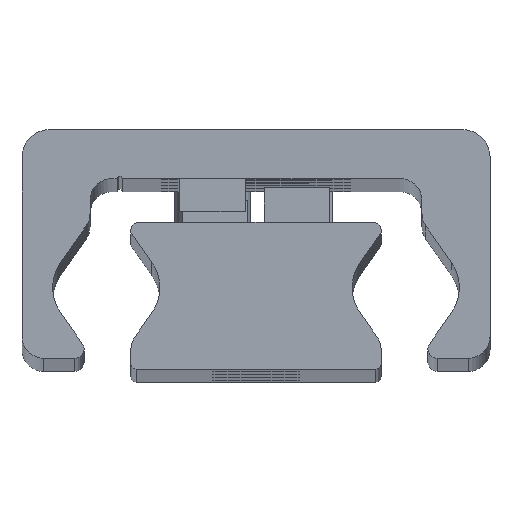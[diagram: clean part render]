
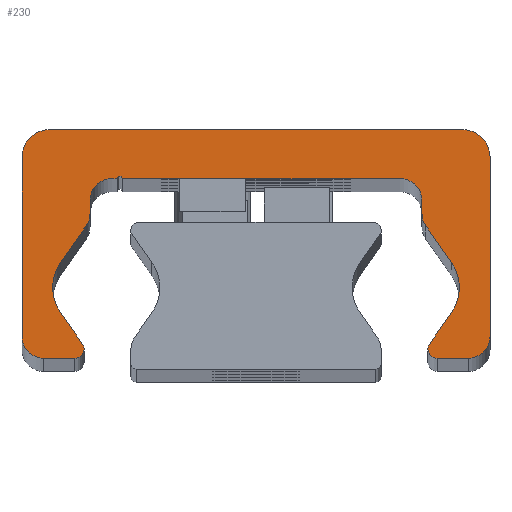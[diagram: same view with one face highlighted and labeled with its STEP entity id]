
A CAD part, top view. The second image highlights one B-rep face of the part: STEP entity #230.
In plain terms, the highlighted planar face has unit normal (0, 0, 1).
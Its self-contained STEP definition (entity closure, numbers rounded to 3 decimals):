
#230=ADVANCED_FACE('',(#604),#605,.T.);
#604=FACE_OUTER_BOUND('',#979,.T.);
#605=PLANE('',#980);
#979=EDGE_LOOP('',(#2258,#2259,#2260,#2261,#2262,#2263,#2264,#2265,#2266,#2267,#2268,#2269,#2270,#2271,#2272,#2273,#2274,#2275,#2276,#2277,#2278,#2279,#2280,#2281,#2282,#2283,#2284,#2285,#2286,#2287));
#980=AXIS2_PLACEMENT_3D('',#2288,#2289,#2290);
#2258=ORIENTED_EDGE('',*,*,#2549,.F.);
#2259=ORIENTED_EDGE('',*,*,#2742,.F.);
#2260=ORIENTED_EDGE('',*,*,#2535,.F.);
#2261=ORIENTED_EDGE('',*,*,#2741,.F.);
#2262=ORIENTED_EDGE('',*,*,#2737,.F.);
#2263=ORIENTED_EDGE('',*,*,#2734,.F.);
#2264=ORIENTED_EDGE('',*,*,#2731,.F.);
#2265=ORIENTED_EDGE('',*,*,#2728,.F.);
#2266=ORIENTED_EDGE('',*,*,#2725,.F.);
#2267=ORIENTED_EDGE('',*,*,#2722,.F.);
#2268=ORIENTED_EDGE('',*,*,#2719,.F.);
#2269=ORIENTED_EDGE('',*,*,#2716,.F.);
#2270=ORIENTED_EDGE('',*,*,#2713,.F.);
#2271=ORIENTED_EDGE('',*,*,#2710,.F.);
#2272=ORIENTED_EDGE('',*,*,#2541,.F.);
#2273=ORIENTED_EDGE('',*,*,#2708,.F.);
#2274=ORIENTED_EDGE('',*,*,#2543,.F.);
#2275=ORIENTED_EDGE('',*,*,#2707,.F.);
#2276=ORIENTED_EDGE('',*,*,#2703,.F.);
#2277=ORIENTED_EDGE('',*,*,#2700,.F.);
#2278=ORIENTED_EDGE('',*,*,#2697,.F.);
#2279=ORIENTED_EDGE('',*,*,#2694,.F.);
#2280=ORIENTED_EDGE('',*,*,#2691,.F.);
#2281=ORIENTED_EDGE('',*,*,#2688,.F.);
#2282=ORIENTED_EDGE('',*,*,#2685,.F.);
#2283=ORIENTED_EDGE('',*,*,#2682,.F.);
#2284=ORIENTED_EDGE('',*,*,#2679,.F.);
#2285=ORIENTED_EDGE('',*,*,#2676,.F.);
#2286=ORIENTED_EDGE('',*,*,#2673,.F.);
#2287=ORIENTED_EDGE('',*,*,#2670,.F.);
#2288=CARTESIAN_POINT('',(-0.023,14.187,690.0));
#2289=DIRECTION('',(0.0,0.0,1.0));
#2290=DIRECTION('',(1.0,0.0,0.0));
#2535=EDGE_CURVE('',#3082,#3085,#3086,.T.);
#2541=EDGE_CURVE('',#3095,#3091,#3097,.T.);
#2543=EDGE_CURVE('',#3098,#3101,#3102,.T.);
#2549=EDGE_CURVE('',#3111,#3107,#3113,.T.);
#2670=EDGE_CURVE('',#3107,#3308,#3309,.T.);
#2673=EDGE_CURVE('',#3308,#3313,#3314,.T.);
#2676=EDGE_CURVE('',#3313,#3318,#3319,.T.);
#2679=EDGE_CURVE('',#3318,#3323,#3324,.T.);
#2682=EDGE_CURVE('',#3323,#3328,#3329,.T.);
#2685=EDGE_CURVE('',#3328,#3333,#3334,.T.);
#2688=EDGE_CURVE('',#3333,#3338,#3339,.T.);
#2691=EDGE_CURVE('',#3338,#3343,#3344,.T.);
#2694=EDGE_CURVE('',#3343,#3348,#3349,.T.);
#2697=EDGE_CURVE('',#3348,#3353,#3354,.T.);
#2700=EDGE_CURVE('',#3353,#3358,#3359,.T.);
#2703=EDGE_CURVE('',#3358,#3363,#3364,.T.);
#2707=EDGE_CURVE('',#3363,#3098,#3369,.T.);
#2708=EDGE_CURVE('',#3101,#3095,#3370,.T.);
#2710=EDGE_CURVE('',#3091,#3372,#3373,.T.);
#2713=EDGE_CURVE('',#3372,#3377,#3378,.T.);
#2716=EDGE_CURVE('',#3377,#3382,#3383,.T.);
#2719=EDGE_CURVE('',#3382,#3387,#3388,.T.);
#2722=EDGE_CURVE('',#3387,#3392,#3393,.T.);
#2725=EDGE_CURVE('',#3392,#3397,#3398,.T.);
#2728=EDGE_CURVE('',#3397,#3402,#3403,.T.);
#2731=EDGE_CURVE('',#3402,#3407,#3408,.T.);
#2734=EDGE_CURVE('',#3407,#3412,#3413,.T.);
#2737=EDGE_CURVE('',#3412,#3417,#3418,.T.);
#2741=EDGE_CURVE('',#3417,#3082,#3423,.T.);
#2742=EDGE_CURVE('',#3085,#3111,#3424,.T.);
#3082=VERTEX_POINT('',#3878);
#3085=VERTEX_POINT('',#3882);
#3086=CIRCLE('',#3883,0.85);
#3091=VERTEX_POINT('',#3889);
#3095=VERTEX_POINT('',#3894);
#3097=CIRCLE('',#3897,0.85);
#3098=VERTEX_POINT('',#3898);
#3101=VERTEX_POINT('',#3902);
#3102=CIRCLE('',#3903,4.);
#3107=VERTEX_POINT('',#3909);
#3111=VERTEX_POINT('',#3914);
#3113=CIRCLE('',#3917,4.);
#3308=VERTEX_POINT('',#4174);
#3309=CIRCLE('',#4175,4.);
#3313=VERTEX_POINT('',#4180);
#3314=LINE('',#4181,#4182);
#3318=VERTEX_POINT('',#4188);
#3319=CIRCLE('',#4189,2.);
#3323=VERTEX_POINT('',#4194);
#3324=LINE('',#4195,#4196);
#3328=VERTEX_POINT('',#4202);
#3329=CIRCLE('',#4203,2.0);
#3333=VERTEX_POINT('',#4208);
#3334=LINE('',#4209,#4210);
#3338=VERTEX_POINT('',#4216);
#3339=CIRCLE('',#4217,0.25);
#3343=VERTEX_POINT('',#4222);
#3344=LINE('',#4223,#4224);
#3348=VERTEX_POINT('',#4230);
#3349=CIRCLE('',#4231,2.0);
#3353=VERTEX_POINT('',#4236);
#3354=LINE('',#4237,#4238);
#3358=VERTEX_POINT('',#4244);
#3359=CIRCLE('',#4245,2.0);
#3363=VERTEX_POINT('',#4250);
#3364=LINE('',#4251,#4252);
#3369=CIRCLE('',#4259,4.);
#3370=LINE('',#4260,#4261);
#3372=VERTEX_POINT('',#4264);
#3373=CIRCLE('',#4265,0.85);
#3377=VERTEX_POINT('',#4270);
#3378=LINE('',#4271,#4272);
#3382=VERTEX_POINT('',#4278);
#3383=CIRCLE('',#4279,2.);
#3387=VERTEX_POINT('',#4284);
#3388=LINE('',#4285,#4286);
#3392=VERTEX_POINT('',#4292);
#3393=CIRCLE('',#4293,2.5);
#3397=VERTEX_POINT('',#4298);
#3398=LINE('',#4299,#4300);
#3402=VERTEX_POINT('',#4306);
#3403=CIRCLE('',#4307,2.5);
#3407=VERTEX_POINT('',#4312);
#3408=LINE('',#4313,#4314);
#3412=VERTEX_POINT('',#4320);
#3413=CIRCLE('',#4321,2.);
#3417=VERTEX_POINT('',#4326);
#3418=LINE('',#4327,#4328);
#3423=CIRCLE('',#4335,0.85);
#3424=LINE('',#4336,#4337);
#3878=CARTESIAN_POINT('',(15.8,1.859,690.0));
#3882=CARTESIAN_POINT('',(15.922,2.298,690.0));
#3883=AXIS2_PLACEMENT_3D('',#4743,#4744,#4745);
#3889=CARTESIAN_POINT('',(-15.8,1.859,690.0));
#3894=CARTESIAN_POINT('',(-15.922,2.298,690.0));
#3897=AXIS2_PLACEMENT_3D('',#4755,#4756,#4757);
#3898=CARTESIAN_POINT('',(-18.688,7.509,690.0));
#3902=CARTESIAN_POINT('',(-17.964,5.214,690.0));
#3903=AXIS2_PLACEMENT_3D('',#4759,#4760,#4761);
#3909=CARTESIAN_POINT('',(18.688,7.509,690.0));
#3914=CARTESIAN_POINT('',(17.964,5.214,690.0));
#3917=AXIS2_PLACEMENT_3D('',#4771,#4772,#4773);
#4174=CARTESIAN_POINT('',(17.964,9.803,690.0));
#4175=AXIS2_PLACEMENT_3D('',#5010,#5011,#5012);
#4180=CARTESIAN_POINT('',(15.612,13.163,690.0));
#4181=CARTESIAN_POINT('',(15.612,13.163,690.0));
#4182=VECTOR('',#5017,1.0);
#4188=CARTESIAN_POINT('',(15.25,14.31,690.0));
#4189=AXIS2_PLACEMENT_3D('',#5020,#5021,#5022);
#4194=CARTESIAN_POINT('',(15.25,15.509,690.0));
#4195=CARTESIAN_POINT('',(15.25,15.509,690.0));
#4196=VECTOR('',#5027,1.0);
#4202=CARTESIAN_POINT('',(13.25,17.509,690.0));
#4203=AXIS2_PLACEMENT_3D('',#5030,#5031,#5032);
#4208=CARTESIAN_POINT('',(-12.25,17.509,690.0));
#4209=CARTESIAN_POINT('',(-12.25,17.509,690.0));
#4210=VECTOR('',#5037,1.0);
#4216=CARTESIAN_POINT('',(-12.75,17.509,690.0));
#4217=AXIS2_PLACEMENT_3D('',#5040,#5041,#5042);
#4222=CARTESIAN_POINT('',(-13.25,17.509,690.0));
#4223=CARTESIAN_POINT('',(-13.25,17.509,690.0));
#4224=VECTOR('',#5047,1.0);
#4230=CARTESIAN_POINT('',(-15.25,15.509,690.0));
#4231=AXIS2_PLACEMENT_3D('',#5050,#5051,#5052);
#4236=CARTESIAN_POINT('',(-15.25,14.31,690.0));
#4237=CARTESIAN_POINT('',(-15.25,14.31,690.0));
#4238=VECTOR('',#5057,1.0);
#4244=CARTESIAN_POINT('',(-15.612,13.163,690.0));
#4245=AXIS2_PLACEMENT_3D('',#5060,#5061,#5062);
#4250=CARTESIAN_POINT('',(-17.964,9.803,690.0));
#4251=CARTESIAN_POINT('',(-17.964,9.803,690.0));
#4252=VECTOR('',#5067,1.0);
#4259=AXIS2_PLACEMENT_3D('',#5073,#5074,#5075);
#4260=CARTESIAN_POINT('',(-15.922,2.298,690.0));
#4261=VECTOR('',#5076,1.0);
#4264=CARTESIAN_POINT('',(-16.65,1.009,690.0));
#4265=AXIS2_PLACEMENT_3D('',#5078,#5079,#5080);
#4270=CARTESIAN_POINT('',(-19.5,1.009,690.0));
#4271=CARTESIAN_POINT('',(-19.5,1.009,690.0));
#4272=VECTOR('',#5085,1.0);
#4278=CARTESIAN_POINT('',(-21.5,3.009,690.0));
#4279=AXIS2_PLACEMENT_3D('',#5088,#5089,#5090);
#4284=CARTESIAN_POINT('',(-21.5,19.509,690.0));
#4285=CARTESIAN_POINT('',(-21.5,19.509,690.0));
#4286=VECTOR('',#5095,1.0);
#4292=CARTESIAN_POINT('',(-19.0,22.009,690.0));
#4293=AXIS2_PLACEMENT_3D('',#5098,#5099,#5100);
#4298=CARTESIAN_POINT('',(19.0,22.009,690.0));
#4299=CARTESIAN_POINT('',(19.0,22.009,690.0));
#4300=VECTOR('',#5105,1.0);
#4306=CARTESIAN_POINT('',(21.5,19.509,690.0));
#4307=AXIS2_PLACEMENT_3D('',#5108,#5109,#5110);
#4312=CARTESIAN_POINT('',(21.5,3.009,690.0));
#4313=CARTESIAN_POINT('',(21.5,3.009,690.0));
#4314=VECTOR('',#5115,1.0);
#4320=CARTESIAN_POINT('',(19.5,1.009,690.0));
#4321=AXIS2_PLACEMENT_3D('',#5118,#5119,#5120);
#4326=CARTESIAN_POINT('',(16.65,1.009,690.0));
#4327=CARTESIAN_POINT('',(16.65,1.009,690.0));
#4328=VECTOR('',#5125,1.0);
#4335=AXIS2_PLACEMENT_3D('',#5131,#5132,#5133);
#4336=CARTESIAN_POINT('',(17.964,5.214,690.0));
#4337=VECTOR('',#5134,1.0);
#4743=CARTESIAN_POINT('',(16.65,1.859,690.0));
#4744=DIRECTION('',(0.0,0.0,-1.0));
#4745=DIRECTION('',(1.0,0.0,0.0));
#4755=CARTESIAN_POINT('',(-16.65,1.859,690.0));
#4756=DIRECTION('',(0.0,0.0,-1.0));
#4757=DIRECTION('',(1.0,0.0,0.0));
#4759=CARTESIAN_POINT('',(-14.688,7.509,690.0));
#4760=DIRECTION('',(0.0,0.0,1.0));
#4761=DIRECTION('',(1.0,0.0,0.0));
#4771=CARTESIAN_POINT('',(14.688,7.509,690.0));
#4772=DIRECTION('',(0.0,0.0,1.0));
#4773=DIRECTION('',(1.0,0.0,0.0));
#5010=CARTESIAN_POINT('',(14.688,7.509,690.0));
#5011=DIRECTION('',(0.0,0.0,1.0));
#5012=DIRECTION('',(1.0,0.0,0.0));
#5017=DIRECTION('',(-0.574,0.819,0.0));
#5020=CARTESIAN_POINT('',(17.25,14.31,690.0));
#5021=DIRECTION('',(0.0,0.0,-1.0));
#5022=DIRECTION('',(1.0,0.0,0.0));
#5027=DIRECTION('',(0.0,1.0,0.0));
#5030=CARTESIAN_POINT('',(13.25,15.509,690.0));
#5031=DIRECTION('',(0.0,0.0,1.0));
#5032=DIRECTION('',(1.0,0.0,0.0));
#5037=DIRECTION('',(-1.0,-0.0,-0.0));
#5040=CARTESIAN_POINT('',(-12.5,17.509,690.0));
#5041=DIRECTION('',(0.0,0.0,1.0));
#5042=DIRECTION('',(1.0,0.0,0.0));
#5047=DIRECTION('',(-1.0,-0.0,-0.0));
#5050=CARTESIAN_POINT('',(-13.25,15.509,690.0));
#5051=DIRECTION('',(0.0,0.0,1.0));
#5052=DIRECTION('',(1.0,0.0,0.0));
#5057=DIRECTION('',(-0.0,-1.0,-0.0));
#5060=CARTESIAN_POINT('',(-17.25,14.31,690.0));
#5061=DIRECTION('',(0.0,0.0,-1.0));
#5062=DIRECTION('',(1.0,0.0,0.0));
#5067=DIRECTION('',(-0.574,-0.819,-0.0));
#5073=CARTESIAN_POINT('',(-14.688,7.509,690.0));
#5074=DIRECTION('',(0.0,0.0,1.0));
#5075=DIRECTION('',(1.0,0.0,0.0));
#5076=DIRECTION('',(0.574,-0.819,0.0));
#5078=CARTESIAN_POINT('',(-16.65,1.859,690.0));
#5079=DIRECTION('',(0.0,0.0,-1.0));
#5080=DIRECTION('',(1.0,0.0,0.0));
#5085=DIRECTION('',(-1.0,-0.0,-0.0));
#5088=CARTESIAN_POINT('',(-19.5,3.009,690.0));
#5089=DIRECTION('',(0.0,0.0,-1.0));
#5090=DIRECTION('',(1.0,0.0,0.0));
#5095=DIRECTION('',(0.0,1.0,0.0));
#5098=CARTESIAN_POINT('',(-19.0,19.509,690.0));
#5099=DIRECTION('',(0.0,0.0,-1.0));
#5100=DIRECTION('',(1.0,0.0,0.0));
#5105=DIRECTION('',(1.0,0.0,0.0));
#5108=CARTESIAN_POINT('',(19.0,19.509,690.0));
#5109=DIRECTION('',(0.0,0.0,-1.0));
#5110=DIRECTION('',(1.0,0.0,0.0));
#5115=DIRECTION('',(-0.0,-1.0,-0.0));
#5118=CARTESIAN_POINT('',(19.5,3.009,690.0));
#5119=DIRECTION('',(0.0,0.0,-1.0));
#5120=DIRECTION('',(1.0,0.0,0.0));
#5125=DIRECTION('',(-1.0,-0.0,-0.0));
#5131=CARTESIAN_POINT('',(16.65,1.859,690.0));
#5132=DIRECTION('',(0.0,0.0,-1.0));
#5133=DIRECTION('',(1.0,0.0,0.0));
#5134=DIRECTION('',(0.574,0.819,0.0));
